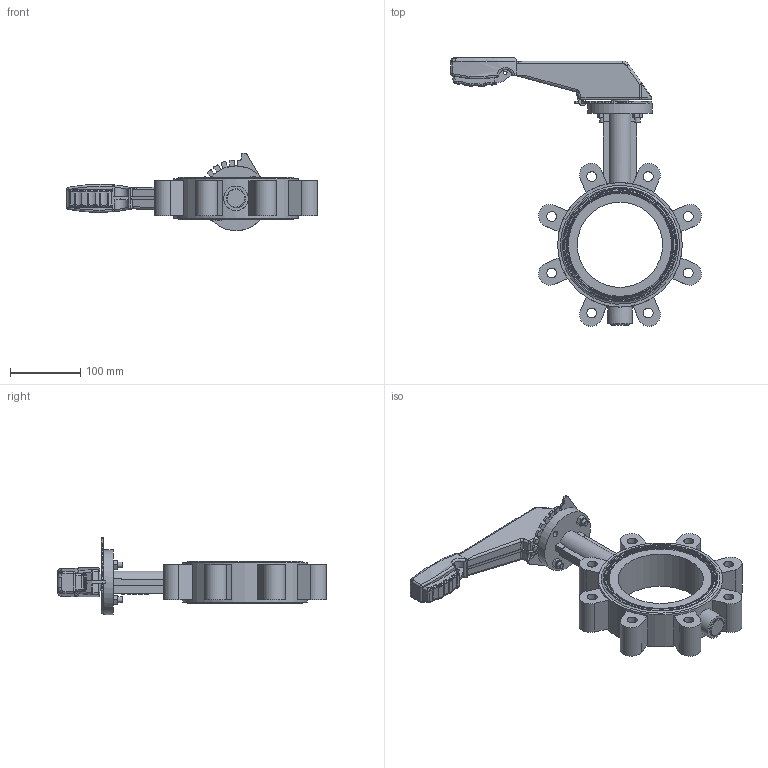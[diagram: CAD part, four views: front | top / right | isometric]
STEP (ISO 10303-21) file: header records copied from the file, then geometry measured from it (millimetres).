
FILE_DESCRIPTION((''),'2;1');
FILE_NAME('K:\Inventor\1 Artikel\10) Absperrklappen\10a) manuell\Witzel\835-GGG, Euronomic BB\835-GGG, DN125\835-GGG, DN125, 3D\835-GGG, DN125, PN10-16, HH, 3D.stp','2019-08-14T10:30:01',('claudia'),(''),'Autodesk Inventor 2013','Autodesk Inventor 2013','');
FILE_SCHEMA(('AUTOMOTIVE_DESIGN { 1 0 10303 214 1 1 1 1 }'));
Length unit declared in the file: millimetre
Products named in the file (1): Bauteil12
Bounding box: 356.51 x 381.76 x 110 mm (x, y, z)
Volume: 1723148.6 mm3; surface area: 220562 mm2
Topology: 1 solids, 3 shells, 1289 faces, 3466 edges, 2265 vertices
Faces by surface type: plane 580, bspline 452, cylinder 156, cone 48, torus 39, sphere 14
Full cylindrical faces by diameter (mm): 5 x1, 7.233 x2, 8 x4, 9 x4, 12 x2, 14 x8, 15.8 x2, 25 x1, 27 x1, 35 x1, 42 x1, 92 x1, 121.2 x1, 177 x1
Entity records: 48150 total; most frequent: CARTESIAN_POINT 18782, ORIENTED_EDGE 6744, DIRECTION 4565, EDGE_CURVE 3372, VERTEX_POINT 2245, VECTOR 1837, LINE 1837, EDGE_LOOP 1469
